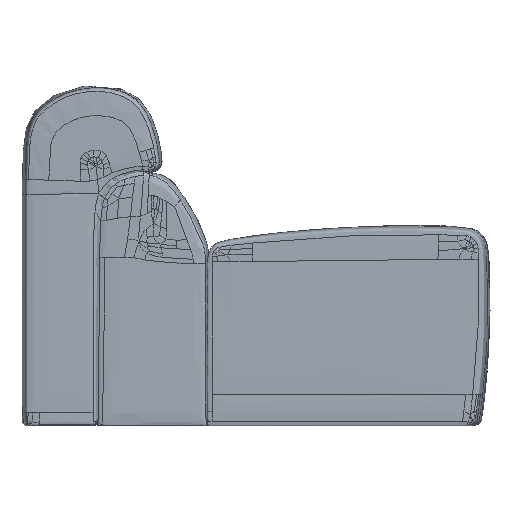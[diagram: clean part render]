
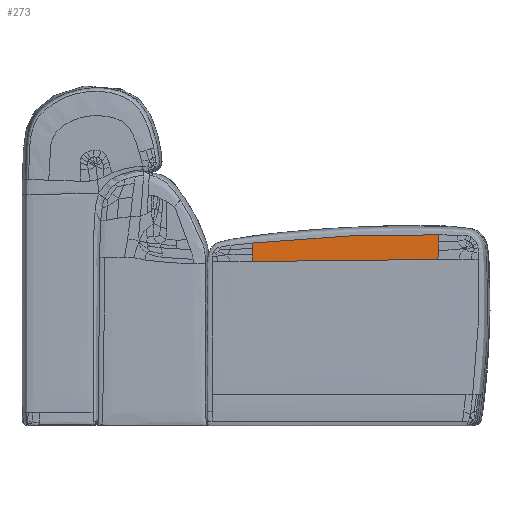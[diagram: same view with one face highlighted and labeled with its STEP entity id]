
A CAD part, left-side view. The second image highlights one B-rep face of the part: STEP entity #273.
In plain terms, the highlighted free-form (B-spline) face has degree [3, 3] with [9, 6] control points.
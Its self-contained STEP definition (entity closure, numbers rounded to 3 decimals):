
#273=ADVANCED_FACE('',(#873),#8909,.T.);
#873=FACE_OUTER_BOUND('',#1473,.T.);
#1473=EDGE_LOOP('',(#3082,#3083,#3084,#3085,#3086,#3087,#3088,#3089));
#3082=ORIENTED_EDGE('',*,*,#5438,.T.);
#3083=ORIENTED_EDGE('',*,*,#5562,.F.);
#3084=ORIENTED_EDGE('',*,*,#5441,.F.);
#3085=ORIENTED_EDGE('',*,*,#5442,.F.);
#3086=ORIENTED_EDGE('',*,*,#5439,.T.);
#3087=ORIENTED_EDGE('',*,*,#5440,.F.);
#3088=ORIENTED_EDGE('',*,*,#5443,.F.);
#3089=ORIENTED_EDGE('',*,*,#5842,.F.);
#5438=EDGE_CURVE('',#8200,#8201,#6933,.T.);
#5439=EDGE_CURVE('',#8202,#8203,#6934,.T.);
#5440=EDGE_CURVE('',#8355,#8203,#6935,.T.);
#5441=EDGE_CURVE('',#8648,#8345,#6936,.T.);
#5442=EDGE_CURVE('',#8202,#8648,#6937,.T.);
#5443=EDGE_CURVE('',#8557,#8355,#6938,.T.);
#5562=EDGE_CURVE('',#8345,#8201,#7057,.T.);
#5842=EDGE_CURVE('',#8200,#8557,#7337,.T.);
#6933=B_SPLINE_CURVE_WITH_KNOTS('',3,(#55373,#55374,#55375,#55376,#55377,
#55378,#55379,#55380,#55381),.UNSPECIFIED.,.F.,.F.,(4,1,1,1,1,1,4),(0.,
1.,2.,3.,4.,5.,6.),.UNSPECIFIED.);
#6934=B_SPLINE_CURVE_WITH_KNOTS('',3,(#55382,#55383,#55384,#55385,#55386,
#55387,#55388,#55389,#55390),.UNSPECIFIED.,.F.,.F.,(4,1,1,1,1,1,4),(-6.,
-5.,-4.,-3.,-2.,-1.,0.),.UNSPECIFIED.);
#6935=B_SPLINE_CURVE_WITH_KNOTS('',3,(#55391,#55392,#55393,#55394),
 .UNSPECIFIED.,.F.,.F.,(4,4),(2.,3.),.UNSPECIFIED.);
#6936=B_SPLINE_CURVE_WITH_KNOTS('',3,(#55395,#55396,#55397,#55398),
 .UNSPECIFIED.,.F.,.F.,(4,4),(-2.,-1.),
 .UNSPECIFIED.);
#6937=B_SPLINE_CURVE_WITH_KNOTS('',3,(#55399,#55400,#55401,#55402),
 .UNSPECIFIED.,.F.,.F.,(4,4),(-3.,-2.),.UNSPECIFIED.);
#6938=B_SPLINE_CURVE_WITH_KNOTS('',3,(#55403,#55404,#55405,#55406),
 .UNSPECIFIED.,.F.,.F.,(4,4),(1.,2.),
 .UNSPECIFIED.);
#7057=B_SPLINE_CURVE_WITH_KNOTS('',3,(#56179,#56180,#56181,#56182),
 .UNSPECIFIED.,.F.,.F.,(4,4),(-1.,0.),.UNSPECIFIED.);
#7337=B_SPLINE_CURVE_WITH_KNOTS('',3,(#57824,#57825,#57826,#57827),
 .UNSPECIFIED.,.F.,.F.,(4,4),(0.,1.),.UNSPECIFIED.);
#8200=VERTEX_POINT('',#54767);
#8201=VERTEX_POINT('',#54768);
#8202=VERTEX_POINT('',#54769);
#8203=VERTEX_POINT('',#54770);
#8345=VERTEX_POINT('',#54912);
#8355=VERTEX_POINT('',#54922);
#8557=VERTEX_POINT('',#55124);
#8648=VERTEX_POINT('',#55215);
#8909=B_SPLINE_SURFACE_WITH_KNOTS('',3,3,((#33043,#33044,#33045,#33046,
#33047,#33048),(#33049,#33050,#33051,#33052,#33053,#33054),(#33055,#33056,
#33057,#33058,#33059,#33060),(#33061,#33062,#33063,#33064,#33065,#33066),
(#33067,#33068,#33069,#33070,#33071,#33072),(#33073,#33074,#33075,#33076,
#33077,#33078),(#33079,#33080,#33081,#33082,#33083,#33084),(#33085,#33086,
#33087,#33088,#33089,#33090),(#33091,#33092,#33093,#33094,#33095,#33096)),
 .UNSPECIFIED.,.F.,.F.,.F.,(4,1,1,1,1,1,4),(4,1,1,4),(0.,1.,2.,3.,4.,5.,
6.),(0.,1.,2.,3.),.UNSPECIFIED.);
#33043=CARTESIAN_POINT('',(2442.389,-1793.909,403.434));
#33044=CARTESIAN_POINT('',(2442.246,-1793.724,399.485));
#33045=CARTESIAN_POINT('',(2441.986,-1793.234,388.985));
#33046=CARTESIAN_POINT('',(2441.716,-1794.301,370.27));
#33047=CARTESIAN_POINT('',(2441.664,-1792.445,358.785));
#33048=CARTESIAN_POINT('',(2441.651,-1791.762,351.566));
#33049=CARTESIAN_POINT('',(2442.391,-1777.517,403.772));
#33050=CARTESIAN_POINT('',(2442.247,-1777.34,399.689));
#33051=CARTESIAN_POINT('',(2441.984,-1776.869,388.781));
#33052=CARTESIAN_POINT('',(2441.713,-1775.846,369.534));
#33053=CARTESIAN_POINT('',(2441.652,-1774.982,358.347));
#33054=CARTESIAN_POINT('',(2441.637,-1774.536,351.239));
#33055=CARTESIAN_POINT('',(2442.398,-1739.15,404.361));
#33056=CARTESIAN_POINT('',(2442.255,-1738.968,400.106));
#33057=CARTESIAN_POINT('',(2441.989,-1738.477,388.647));
#33058=CARTESIAN_POINT('',(2441.714,-1737.437,368.709));
#33059=CARTESIAN_POINT('',(2441.653,-1736.594,357.646));
#33060=CARTESIAN_POINT('',(2441.638,-1736.152,350.647));
#33061=CARTESIAN_POINT('',(2442.404,-1672.359,403.596));
#33062=CARTESIAN_POINT('',(2442.261,-1672.194,399.264));
#33063=CARTESIAN_POINT('',(2441.993,-1671.75,387.505));
#33064=CARTESIAN_POINT('',(2441.715,-1670.823,367.285));
#33065=CARTESIAN_POINT('',(2441.653,-1670.093,356.558));
#33066=CARTESIAN_POINT('',(2441.638,-1669.707,349.755));
#33067=CARTESIAN_POINT('',(2442.519,-1601.526,401.181));
#33068=CARTESIAN_POINT('',(2442.375,-1601.395,396.935));
#33069=CARTESIAN_POINT('',(2442.105,-1601.039,385.369));
#33070=CARTESIAN_POINT('',(2441.821,-1600.302,365.615));
#33071=CARTESIAN_POINT('',(2441.754,-1599.725,355.386));
#33072=CARTESIAN_POINT('',(2441.736,-1599.419,348.818));
#33073=CARTESIAN_POINT('',(2442.858,-1531.853,397.11));
#33074=CARTESIAN_POINT('',(2442.711,-1531.757,393.095));
#33075=CARTESIAN_POINT('',(2442.435,-1531.503,382.191));
#33076=CARTESIAN_POINT('',(2442.139,-1530.97,363.637));
#33077=CARTESIAN_POINT('',(2442.058,-1530.542,354.08));
#33078=CARTESIAN_POINT('',(2442.031,-1530.313,347.794));
#33079=CARTESIAN_POINT('',(2443.193,-1464.109,391.882));
#33080=CARTESIAN_POINT('',(2443.043,-1464.078,388.261));
#33081=CARTESIAN_POINT('',(2442.766,-1463.977,378.51));
#33082=CARTESIAN_POINT('',(2442.464,-1463.72,361.87));
#33083=CARTESIAN_POINT('',(2442.371,-1463.489,353.107));
#33084=CARTESIAN_POINT('',(2442.338,-1463.354,347.116));
#33085=CARTESIAN_POINT('',(2443.262,-1420.746,387.956));
#33086=CARTESIAN_POINT('',(2443.113,-1420.794,384.721));
#33087=CARTESIAN_POINT('',(2442.84,-1420.858,376.082));
#33088=CARTESIAN_POINT('',(2442.548,-1420.873,361.18));
#33089=CARTESIAN_POINT('',(2442.459,-1420.836,352.991));
#33090=CARTESIAN_POINT('',(2442.428,-1420.788,347.184));
#33091=CARTESIAN_POINT('',(2443.279,-1401.662,386.102));
#33092=CARTESIAN_POINT('',(2443.131,-1401.768,383.083));
#33093=CARTESIAN_POINT('',(2442.863,-1401.962,375.069));
#33094=CARTESIAN_POINT('',(2442.583,-1400.922,361.03));
#33095=CARTESIAN_POINT('',(2442.499,-1401.584,353.022));
#33096=CARTESIAN_POINT('',(2442.469,-1401.727,347.275));
#54767=CARTESIAN_POINT('',(2442.389,-1793.909,403.434));
#54768=CARTESIAN_POINT('',(2443.279,-1401.662,386.102));
#54769=CARTESIAN_POINT('',(2442.469,-1401.727,347.275));
#54770=CARTESIAN_POINT('',(2441.651,-1791.762,351.566));
#54912=CARTESIAN_POINT('',(2442.884,-1401.74,374.733));
#54922=CARTESIAN_POINT('',(2441.748,-1793.659,370.518));
#55124=CARTESIAN_POINT('',(2442.006,-1793.534,388.491));
#55215=CARTESIAN_POINT('',(2442.609,-1401.261,361.368));
#55373=CARTESIAN_POINT('',(2442.389,-1793.909,403.434));
#55374=CARTESIAN_POINT('',(2442.391,-1777.517,403.772));
#55375=CARTESIAN_POINT('',(2442.398,-1739.15,404.361));
#55376=CARTESIAN_POINT('',(2442.404,-1672.359,403.596));
#55377=CARTESIAN_POINT('',(2442.519,-1601.526,401.181));
#55378=CARTESIAN_POINT('',(2442.858,-1531.853,397.11));
#55379=CARTESIAN_POINT('',(2443.193,-1464.109,391.882));
#55380=CARTESIAN_POINT('',(2443.262,-1420.746,387.956));
#55381=CARTESIAN_POINT('',(2443.279,-1401.662,386.102));
#55382=CARTESIAN_POINT('',(2442.469,-1401.727,347.275));
#55383=CARTESIAN_POINT('',(2442.428,-1420.788,347.184));
#55384=CARTESIAN_POINT('',(2442.338,-1463.354,347.116));
#55385=CARTESIAN_POINT('',(2442.031,-1530.313,347.794));
#55386=CARTESIAN_POINT('',(2441.736,-1599.419,348.818));
#55387=CARTESIAN_POINT('',(2441.638,-1669.707,349.755));
#55388=CARTESIAN_POINT('',(2441.638,-1736.152,350.647));
#55389=CARTESIAN_POINT('',(2441.637,-1774.536,351.239));
#55390=CARTESIAN_POINT('',(2441.651,-1791.762,351.566));
#55391=CARTESIAN_POINT('',(2441.748,-1793.659,370.518));
#55392=CARTESIAN_POINT('',(2441.69,-1793.373,364.528));
#55393=CARTESIAN_POINT('',(2441.664,-1792.445,358.785));
#55394=CARTESIAN_POINT('',(2441.651,-1791.762,351.566));
#55395=CARTESIAN_POINT('',(2442.609,-1401.261,361.368));
#55396=CARTESIAN_POINT('',(2442.676,-1401.268,365.709));
#55397=CARTESIAN_POINT('',(2442.77,-1401.615,370.389));
#55398=CARTESIAN_POINT('',(2442.884,-1401.74,374.733));
#55399=CARTESIAN_POINT('',(2442.469,-1401.727,347.275));
#55400=CARTESIAN_POINT('',(2442.499,-1401.584,353.022));
#55401=CARTESIAN_POINT('',(2442.541,-1401.253,357.026));
#55402=CARTESIAN_POINT('',(2442.609,-1401.261,361.368));
#55403=CARTESIAN_POINT('',(2442.006,-1793.534,388.491));
#55404=CARTESIAN_POINT('',(2441.896,-1793.59,382.747));
#55405=CARTESIAN_POINT('',(2441.806,-1793.945,376.509));
#55406=CARTESIAN_POINT('',(2441.748,-1793.659,370.518));
#56179=CARTESIAN_POINT('',(2442.884,-1401.74,374.733));
#56180=CARTESIAN_POINT('',(2442.997,-1401.865,379.076));
#56181=CARTESIAN_POINT('',(2443.131,-1401.768,383.083));
#56182=CARTESIAN_POINT('',(2443.279,-1401.662,386.102));
#57824=CARTESIAN_POINT('',(2442.389,-1793.909,403.434));
#57825=CARTESIAN_POINT('',(2442.246,-1793.724,399.485));
#57826=CARTESIAN_POINT('',(2442.116,-1793.479,394.235));
#57827=CARTESIAN_POINT('',(2442.006,-1793.534,388.491));
